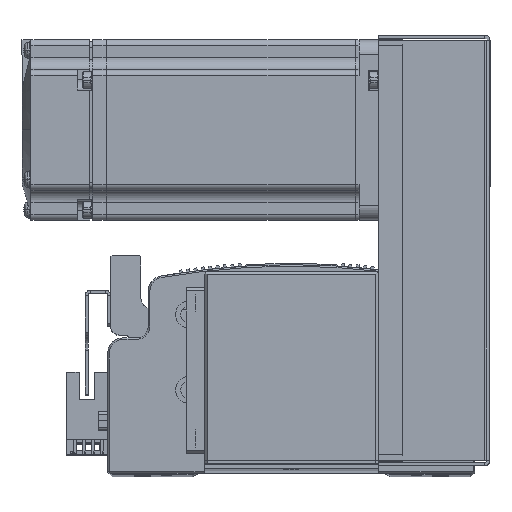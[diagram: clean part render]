
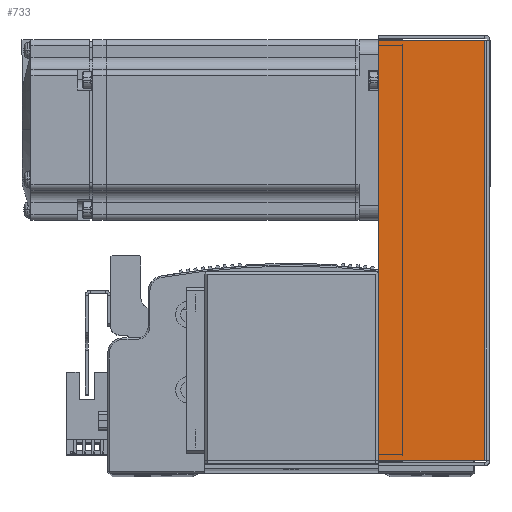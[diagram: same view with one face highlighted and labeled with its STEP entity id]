
A CAD part, top view. The second image highlights one B-rep face of the part: STEP entity #733.
In plain terms, the highlighted planar face has unit normal (0, 0, 1) as drawn and (0, 0, -1) by its records, which use the part's own axes.
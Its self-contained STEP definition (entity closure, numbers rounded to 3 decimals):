
#733 = ADVANCED_FACE ( 'NONE', ( #49326 ), #3573, .F. ) ;
#3573 = PLANE ( 'NONE',  #10556 ) ;
#3578 = DIRECTION ( 'NONE',  ( 0., 0., 1. ) ) ;
#3594 = DIRECTION ( 'NONE',  ( 0., -1., 0. ) ) ;
#3616 = CARTESIAN_POINT ( 'NONE',  ( 0., 0., -33.5 ) ) ;
#8467 = LINE ( 'NONE', #17152, #8519 ) ;
#8490 = VECTOR ( 'NONE', #17109, 1000. ) ;
#8497 = LINE ( 'NONE', #17062, #8490 ) ;
#8519 = VECTOR ( 'NONE', #17156, 1000. ) ;
#8628 = VECTOR ( 'NONE', #13232, 1000. ) ;
#8638 = LINE ( 'NONE', #13220, #8628 ) ;
#8669 = VECTOR ( 'NONE', #13301, 1000. ) ;
#8688 = LINE ( 'NONE', #13292, #8669 ) ;
#10556 = AXIS2_PLACEMENT_3D ( 'NONE', #3616, #3578, #3594 ) ;
#13220 = CARTESIAN_POINT ( 'NONE',  ( 0., 36., -33.5 ) ) ;
#13232 = DIRECTION ( 'NONE',  ( 1., 0., 0. ) ) ;
#13292 = CARTESIAN_POINT ( 'NONE',  ( -69.793, 0., -33.5 ) ) ;
#13301 = DIRECTION ( 'NONE',  ( 0., 1., 0. ) ) ;
#17062 = CARTESIAN_POINT ( 'NONE',  ( 71.5, 0.737, -33.5 ) ) ;
#17109 = DIRECTION ( 'NONE',  ( 1., 0., 0. ) ) ;
#17152 = CARTESIAN_POINT ( 'NONE',  ( 69.793, 0., -33.5 ) ) ;
#17156 = DIRECTION ( 'NONE',  ( 0., 1., 0. ) ) ;
#19939 = CARTESIAN_POINT ( 'NONE',  ( 69.793, 36., -33.5 ) ) ;
#19945 = CARTESIAN_POINT ( 'NONE',  ( 69.793, 0.737, -33.5 ) ) ;
#19982 = CARTESIAN_POINT ( 'NONE',  ( -69.793, 36., -33.5 ) ) ;
#19994 = CARTESIAN_POINT ( 'NONE',  ( -69.793, 0.737, -33.5 ) ) ;
#27641 = EDGE_LOOP ( 'NONE', ( #80490, #80562, #80547, #80532 ) ) ;
#49326 = FACE_OUTER_BOUND ( 'NONE', #27641, .T. ) ;
#65254 = VERTEX_POINT ( 'NONE', #19945 ) ;
#65257 = VERTEX_POINT ( 'NONE', #19982 ) ;
#65301 = VERTEX_POINT ( 'NONE', #19939 ) ;
#65360 = VERTEX_POINT ( 'NONE', #19994 ) ;
#66824 = EDGE_CURVE ( 'NONE', #65360, #65254, #8497, .T. ) ;
#66860 = EDGE_CURVE ( 'NONE', #65254, #65301, #8467, .T. ) ;
#67059 = EDGE_CURVE ( 'NONE', #65257, #65301, #8638, .T. ) ;
#67118 = EDGE_CURVE ( 'NONE', #65360, #65257, #8688, .T. ) ;
#80490 = ORIENTED_EDGE ( 'NONE', *, *, #66824, .F. ) ;
#80532 = ORIENTED_EDGE ( 'NONE', *, *, #66860, .F. ) ;
#80547 = ORIENTED_EDGE ( 'NONE', *, *, #67059, .T. ) ;
#80562 = ORIENTED_EDGE ( 'NONE', *, *, #67118, .T. ) ;
